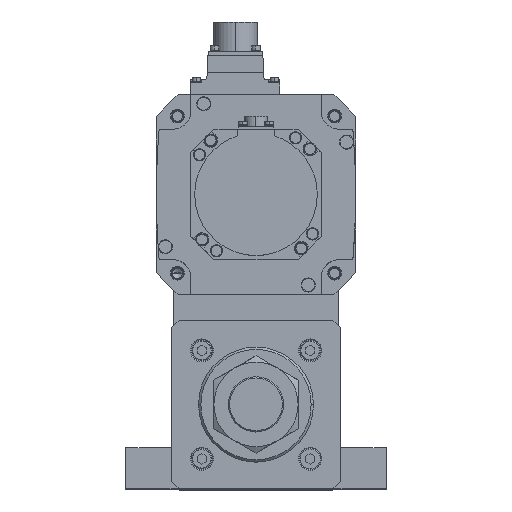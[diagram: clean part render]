
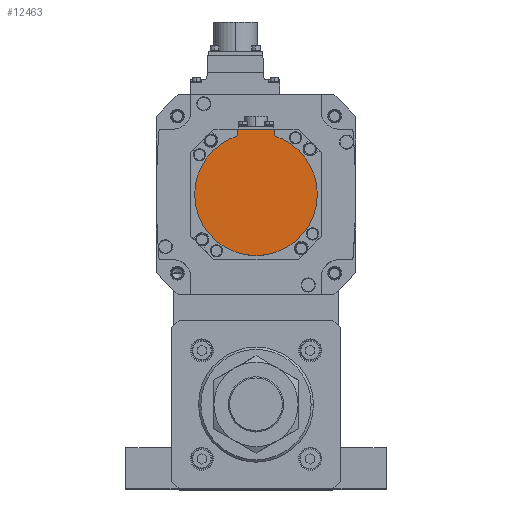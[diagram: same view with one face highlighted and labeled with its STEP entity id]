
A CAD part, top view. The second image highlights one B-rep face of the part: STEP entity #12463.
In plain terms, the highlighted planar face has unit normal (0, 0, 1) as drawn and (0, 0, -1) by its records, which use the part's own axes.
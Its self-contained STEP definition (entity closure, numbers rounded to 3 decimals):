
#2867 = VERTEX_POINT ( 'NONE', #20010 ) ;
#3001 = CIRCLE ( 'NONE', #18183, 40. ) ;
#4197 = CARTESIAN_POINT ( 'NONE',  ( -40., 0., -132.5 ) ) ;
#4448 = DIRECTION ( 'NONE',  ( 0., 0., 1. ) ) ;
#5339 = CARTESIAN_POINT ( 'NONE',  ( 0., -1.249, -132.5 ) ) ;
#5520 = EDGE_CURVE ( 'NONE', #12516, #7359, #12926, .T. ) ;
#6432 = ORIENTED_EDGE ( 'NONE', *, *, #5520, .F. ) ;
#7359 = VERTEX_POINT ( 'NONE', #23491 ) ;
#7536 = CARTESIAN_POINT ( 'NONE',  ( -12., -42.5, -132.5 ) ) ;
#7709 = LINE ( 'NONE', #31782, #30837 ) ;
#7791 = CARTESIAN_POINT ( 'NONE',  ( 0., 0., -132.5 ) ) ;
#8612 = EDGE_CURVE ( 'NONE', #2867, #12516, #3001, .T. ) ;
#8953 = CARTESIAN_POINT ( 'NONE',  ( 12., -1.249, -132.5 ) ) ;
#11387 = EDGE_CURVE ( 'NONE', #29435, #16600, #7709, .T. ) ;
#12463 = ADVANCED_FACE ( 'NONE', ( #32035 ), #32275, .F. ) ;
#12516 = VERTEX_POINT ( 'NONE', #4197 ) ;
#12921 = VECTOR ( 'NONE', #20590, 1000. ) ;
#12926 = CIRCLE ( 'NONE', #34769, 40. ) ;
#13680 = EDGE_LOOP ( 'NONE', ( #26297, #6432, #32561, #22087, #30857, #24485 ) ) ;
#14683 = CARTESIAN_POINT ( 'NONE',  ( 0., 0., -132.5 ) ) ;
#14740 = EDGE_CURVE ( 'NONE', #16600, #7359, #26357, .T. ) ;
#15427 = DIRECTION ( 'NONE',  ( 0., 1., 0. ) ) ;
#15981 = AXIS2_PLACEMENT_3D ( 'NONE', #5339, #24448, #27072 ) ;
#16600 = VERTEX_POINT ( 'NONE', #7536 ) ;
#17984 = LINE ( 'NONE', #8953, #12921 ) ;
#18097 = DIRECTION ( 'NONE',  ( 1., 0., 0. ) ) ;
#18183 = AXIS2_PLACEMENT_3D ( 'NONE', #7791, #29095, #29320 ) ;
#19447 = EDGE_CURVE ( 'NONE', #34730, #2867, #22975, .T. ) ;
#19648 = VECTOR ( 'NONE', #15427, 1000. ) ;
#20010 = CARTESIAN_POINT ( 'NONE',  ( 40., 0., -132.5 ) ) ;
#20590 = DIRECTION ( 'NONE',  ( 0., 1., 0. ) ) ;
#21042 = DIRECTION ( 'NONE',  ( -1., 0., 0. ) ) ;
#21331 = CARTESIAN_POINT ( 'NONE',  ( 12., -38.158, -132.5 ) ) ;
#22087 = ORIENTED_EDGE ( 'NONE', *, *, #19447, .F. ) ;
#22975 = CIRCLE ( 'NONE', #25873, 40. ) ;
#23491 = CARTESIAN_POINT ( 'NONE',  ( -12., -38.158, -132.5 ) ) ;
#24448 = DIRECTION ( 'NONE',  ( 0., 0., 1. ) ) ;
#24485 = ORIENTED_EDGE ( 'NONE', *, *, #11387, .T. ) ;
#24838 = DIRECTION ( 'NONE',  ( 0., 0., 1. ) ) ;
#25072 = CARTESIAN_POINT ( 'NONE',  ( 0., 0., -132.5 ) ) ;
#25873 = AXIS2_PLACEMENT_3D ( 'NONE', #14683, #4448, #18097 ) ;
#26297 = ORIENTED_EDGE ( 'NONE', *, *, #14740, .T. ) ;
#26357 = LINE ( 'NONE', #31357, #19648 ) ;
#27072 = DIRECTION ( 'NONE',  ( 1., 0., 0. ) ) ;
#27447 = EDGE_CURVE ( 'NONE', #29435, #34730, #17984, .T. ) ;
#29095 = DIRECTION ( 'NONE',  ( 0., 0., 1. ) ) ;
#29320 = DIRECTION ( 'NONE',  ( 1., 0., 0. ) ) ;
#29435 = VERTEX_POINT ( 'NONE', #30060 ) ;
#30060 = CARTESIAN_POINT ( 'NONE',  ( 12., -42.5, -132.5 ) ) ;
#30837 = VECTOR ( 'NONE', #21042, 1000. ) ;
#30857 = ORIENTED_EDGE ( 'NONE', *, *, #27447, .F. ) ;
#31357 = CARTESIAN_POINT ( 'NONE',  ( -12., -40.329, -132.5 ) ) ;
#31782 = CARTESIAN_POINT ( 'NONE',  ( 0., -42.5, -132.5 ) ) ;
#32035 = FACE_OUTER_BOUND ( 'NONE', #13680, .T. ) ;
#32275 = PLANE ( 'NONE',  #15981 ) ;
#32561 = ORIENTED_EDGE ( 'NONE', *, *, #8612, .F. ) ;
#33241 = DIRECTION ( 'NONE',  ( 1., 0., 0. ) ) ;
#34730 = VERTEX_POINT ( 'NONE', #21331 ) ;
#34769 = AXIS2_PLACEMENT_3D ( 'NONE', #25072, #24838, #33241 ) ;
